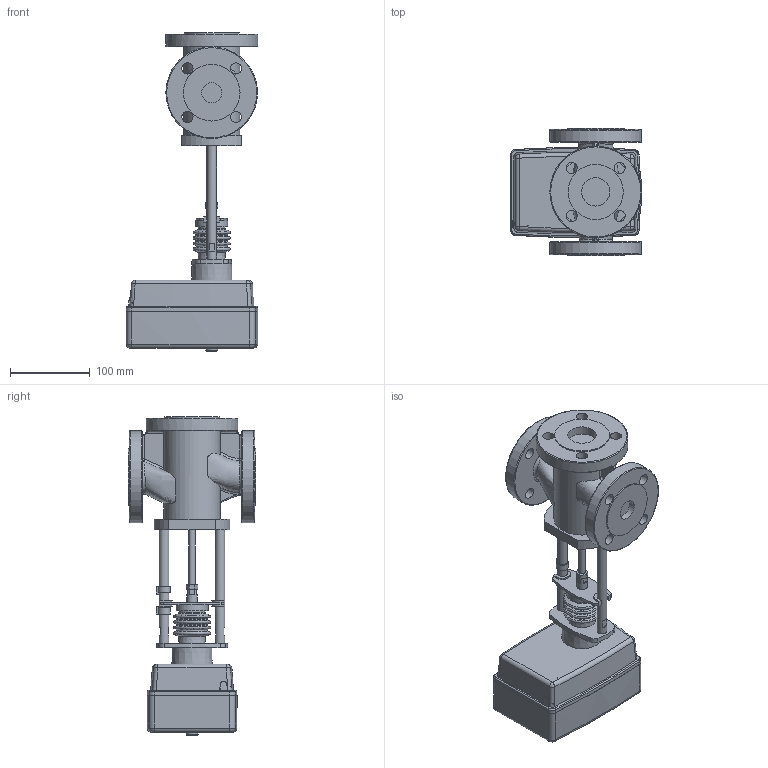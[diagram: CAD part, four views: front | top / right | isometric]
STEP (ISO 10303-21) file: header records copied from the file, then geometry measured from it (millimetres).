
FILE_DESCRIPTION(/* description */ ('Unknown'),/* implementation_level */ '2;1');
FILE_NAME(/* name */ 'TRV-3-25-101(модель)',/* time_stamp */ '2021-11-23T14:12:25+03:00',/* author */ ('Unknown'),/* organization */ ('Unknown'),/* preprocessor_version */ 'ST-DEVELOPER v16.7',/* originating_system */ 'DEX',/* authorisation */ $);
FILE_SCHEMA (('AUTOMOTIVE_DESIGN {1 0 10303 214 3 1 1}'));
Length unit declared in the file: millimetre
Products named in the file (1): TRV-3-25-101(斁麧錪)
Bounding box: 164.51 x 160 x 398.91 mm (x, y, z)
Volume: 2702501.2 mm3; surface area: 237901.7 mm2
Topology: 1 solids, 1 shells, 374 faces, 954 edges, 598 vertices
Faces by surface type: plane 171, cylinder 95, torus 46, bspline 30, cone 22, sphere 10
Full cylindrical faces by diameter (mm): 8 x1, 12.002 x4, 13 x1, 14 x12, 15 x1, 25 x2, 33.4 x1, 33.972 x1, 35.5 x1, 40 x1, 69 x1, 70.57 x1, 71 x2, 115 x3
Entity records: 16157 total; most frequent: CARTESIAN_POINT 4997, DIRECTION 1780, ORIENTED_EDGE 1690, EDGE_CURVE 845, AXIS2_PLACEMENT_3D 706, VERTEX_POINT 561, EDGE_LOOP 492, FACE_BOUND 492
